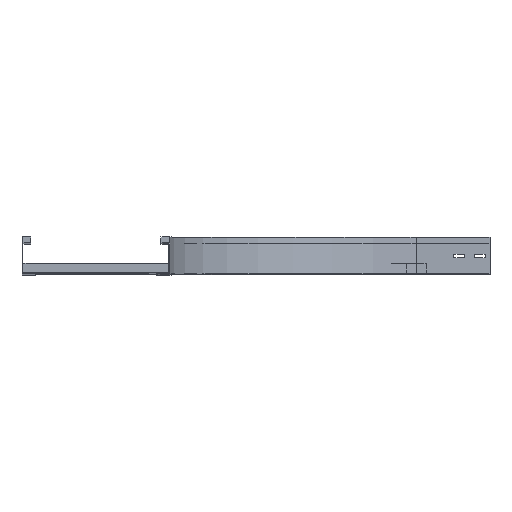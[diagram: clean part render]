
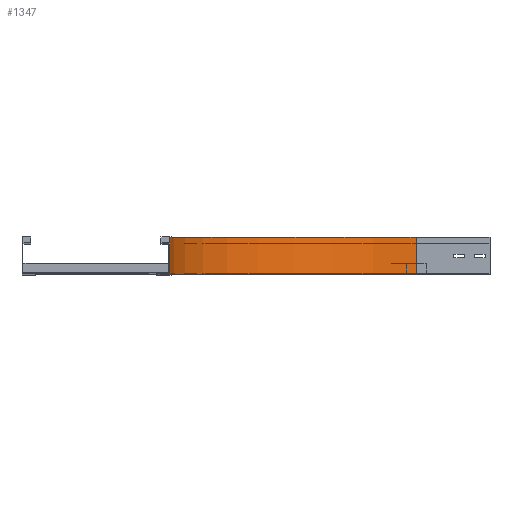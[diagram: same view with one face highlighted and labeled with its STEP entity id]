
A CAD part, top view. The second image highlights one B-rep face of the part: STEP entity #1347.
In plain terms, the highlighted cylindrical face has radius 500 mm (diameter 1000 mm), a partial arc.
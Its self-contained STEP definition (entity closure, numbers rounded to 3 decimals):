
#129 = VERTEX_POINT ( 'NONE', #4121 ) ;
#215 = LINE ( 'NONE', #3410, #3879 ) ;
#276 = CARTESIAN_POINT ( 'NONE',  ( 500., 0., -150. ) ) ;
#505 = VERTEX_POINT ( 'NONE', #2073 ) ;
#545 = DIRECTION ( 'NONE',  ( 0., 1., 0. ) ) ;
#549 = DIRECTION ( 'NONE',  ( 0., -1., 0. ) ) ;
#712 = EDGE_CURVE ( 'NONE', #505, #2805, #4175, .T. ) ;
#838 = FACE_OUTER_BOUND ( 'NONE', #3790, .T. ) ;
#843 = EDGE_CURVE ( 'NONE', #2409, #505, #3503, .T. ) ;
#905 = CARTESIAN_POINT ( 'NONE',  ( 0., 0., -150. ) ) ;
#944 = VECTOR ( 'NONE', #545, 1000. ) ;
#1208 = DIRECTION ( 'NONE',  ( 0., 0., -1. ) ) ;
#1347 = ADVANCED_FACE ( 'NONE', ( #838 ), #1824, .F. ) ;
#1651 = ORIENTED_EDGE ( 'NONE', *, *, #2372, .T. ) ;
#1738 = DIRECTION ( 'NONE',  ( 0., -1., 0. ) ) ;
#1808 = CARTESIAN_POINT ( 'NONE',  ( 500., 0., -150. ) ) ;
#1824 = CYLINDRICAL_SURFACE ( 'NONE', #3022, 500. ) ;
#1844 = EDGE_CURVE ( 'NONE', #129, #2805, #215, .T. ) ;
#1916 = AXIS2_PLACEMENT_3D ( 'NONE', #276, #2204, #2549 ) ;
#2030 = ORIENTED_EDGE ( 'NONE', *, *, #1844, .T. ) ;
#2073 = CARTESIAN_POINT ( 'NONE',  ( 0., 75., -150. ) ) ;
#2204 = DIRECTION ( 'NONE',  ( 0., -1., 0. ) ) ;
#2372 = EDGE_CURVE ( 'NONE', #2409, #129, #2469, .T. ) ;
#2409 = VERTEX_POINT ( 'NONE', #3554 ) ;
#2469 = CIRCLE ( 'NONE', #1916, 500. ) ;
#2549 = DIRECTION ( 'NONE',  ( -1., 0., 0. ) ) ;
#2805 = VERTEX_POINT ( 'NONE', #2926 ) ;
#2837 = DIRECTION ( 'NONE',  ( 0., 1., 0. ) ) ;
#2926 = CARTESIAN_POINT ( 'NONE',  ( 500., 75., -650. ) ) ;
#2940 = ORIENTED_EDGE ( 'NONE', *, *, #712, .F. ) ;
#3022 = AXIS2_PLACEMENT_3D ( 'NONE', #1808, #549, #1208 ) ;
#3050 = DIRECTION ( 'NONE',  ( -1., 0., 0. ) ) ;
#3388 = ORIENTED_EDGE ( 'NONE', *, *, #843, .F. ) ;
#3410 = CARTESIAN_POINT ( 'NONE',  ( 500., 0., -650. ) ) ;
#3413 = AXIS2_PLACEMENT_3D ( 'NONE', #4021, #1738, #3050 ) ;
#3503 = LINE ( 'NONE', #905, #944 ) ;
#3554 = CARTESIAN_POINT ( 'NONE',  ( 0., 0., -150. ) ) ;
#3790 = EDGE_LOOP ( 'NONE', ( #2940, #3388, #1651, #2030 ) ) ;
#3879 = VECTOR ( 'NONE', #2837, 1000. ) ;
#4021 = CARTESIAN_POINT ( 'NONE',  ( 500., 75., -150. ) ) ;
#4121 = CARTESIAN_POINT ( 'NONE',  ( 500., 0., -650. ) ) ;
#4175 = CIRCLE ( 'NONE', #3413, 500. ) ;
